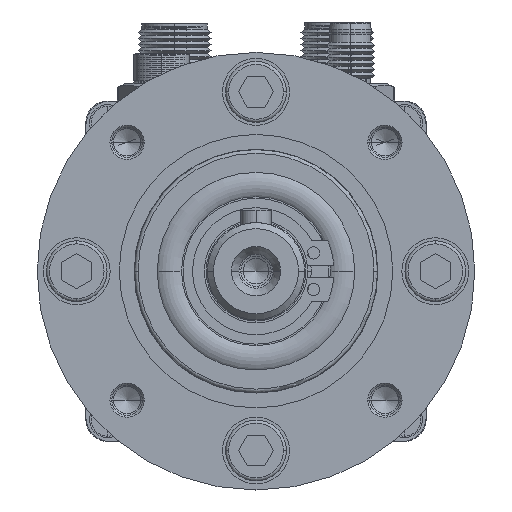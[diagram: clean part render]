
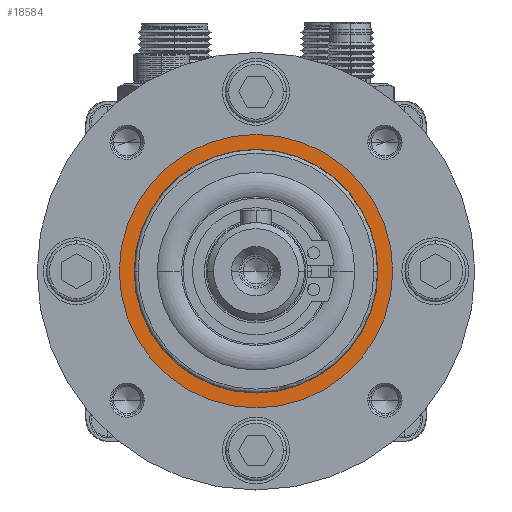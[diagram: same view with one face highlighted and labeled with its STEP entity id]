
A CAD part, left-side view. The second image highlights one B-rep face of the part: STEP entity #18584.
In plain terms, the highlighted planar face has unit normal (-1, 0, 0) as drawn and (1, 0, 0) by its records, which use the part's own axes.
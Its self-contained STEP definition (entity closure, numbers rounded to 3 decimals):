
#1843 = CIRCLE ( 'NONE', #61920, 20.05 ) ;
#4976 = CARTESIAN_POINT ( 'NONE',  ( 38.6, 0., -20.05 ) ) ;
#9294 = AXIS2_PLACEMENT_3D ( 'NONE', #99092, #63084, #133619 ) ;
#9713 = CIRCLE ( 'NONE', #131420, 20.05 ) ;
#12603 = DIRECTION ( 'NONE',  ( -1., 0., 0. ) ) ;
#14319 = VERTEX_POINT ( 'NONE', #51292 ) ;
#14757 = AXIS2_PLACEMENT_3D ( 'NONE', #55025, #137053, #32499 ) ;
#16551 = DIRECTION ( 'NONE',  ( 0., 0., 1. ) ) ;
#18584 = ADVANCED_FACE ( 'NONE', ( #45718, #68976 ), #51058, .T. ) ;
#29101 = CARTESIAN_POINT ( 'NONE',  ( 38.6, 0., 0. ) ) ;
#32499 = DIRECTION ( 'NONE',  ( 0., 0., -1. ) ) ;
#33131 = CARTESIAN_POINT ( 'NONE',  ( 38.6, 0., 0. ) ) ;
#34657 = EDGE_CURVE ( 'NONE', #36746, #42653, #1843, .T. ) ;
#36496 = VERTEX_POINT ( 'NONE', #134099 ) ;
#36746 = VERTEX_POINT ( 'NONE', #4976 ) ;
#37678 = DIRECTION ( 'NONE',  ( -1., 0., 0. ) ) ;
#41272 = EDGE_CURVE ( 'NONE', #42653, #36746, #9713, .T. ) ;
#42653 = VERTEX_POINT ( 'NONE', #141057 ) ;
#45718 = FACE_OUTER_BOUND ( 'NONE', #53917, .T. ) ;
#49929 = ORIENTED_EDGE ( 'NONE', *, *, #94827, .F. ) ;
#50612 = AXIS2_PLACEMENT_3D ( 'NONE', #29101, #73684, #141219 ) ;
#51058 = PLANE ( 'NONE',  #9294 ) ;
#51292 = CARTESIAN_POINT ( 'NONE',  ( 38.6, 0., -22.5 ) ) ;
#53917 = EDGE_LOOP ( 'NONE', ( #49929, #146616 ) ) ;
#55025 = CARTESIAN_POINT ( 'NONE',  ( 38.6, 0., 0. ) ) ;
#61920 = AXIS2_PLACEMENT_3D ( 'NONE', #142639, #37678, #16551 ) ;
#63084 = DIRECTION ( 'NONE',  ( 1., 0., 0. ) ) ;
#68976 = FACE_BOUND ( 'NONE', #88324, .T. ) ;
#73684 = DIRECTION ( 'NONE',  ( -1., 0., 0. ) ) ;
#83719 = CIRCLE ( 'NONE', #14757, 22.5 ) ;
#85626 = ORIENTED_EDGE ( 'NONE', *, *, #41272, .T. ) ;
#88324 = EDGE_LOOP ( 'NONE', ( #85626, #125345 ) ) ;
#92861 = CIRCLE ( 'NONE', #50612, 22.5 ) ;
#94827 = EDGE_CURVE ( 'NONE', #14319, #36496, #83719, .T. ) ;
#99092 = CARTESIAN_POINT ( 'NONE',  ( 38.6, 0., 0. ) ) ;
#113163 = DIRECTION ( 'NONE',  ( 0., 0., 1. ) ) ;
#117304 = EDGE_CURVE ( 'NONE', #36496, #14319, #92861, .T. ) ;
#125345 = ORIENTED_EDGE ( 'NONE', *, *, #34657, .T. ) ;
#131420 = AXIS2_PLACEMENT_3D ( 'NONE', #33131, #12603, #113163 ) ;
#133619 = DIRECTION ( 'NONE',  ( 0., 0., -1. ) ) ;
#134099 = CARTESIAN_POINT ( 'NONE',  ( 38.6, 0., 22.5 ) ) ;
#137053 = DIRECTION ( 'NONE',  ( -1., 0., 0. ) ) ;
#141057 = CARTESIAN_POINT ( 'NONE',  ( 38.6, 0., 20.05 ) ) ;
#141219 = DIRECTION ( 'NONE',  ( 0., 0., -1. ) ) ;
#142639 = CARTESIAN_POINT ( 'NONE',  ( 38.6, 0., 0. ) ) ;
#146616 = ORIENTED_EDGE ( 'NONE', *, *, #117304, .F. ) ;
